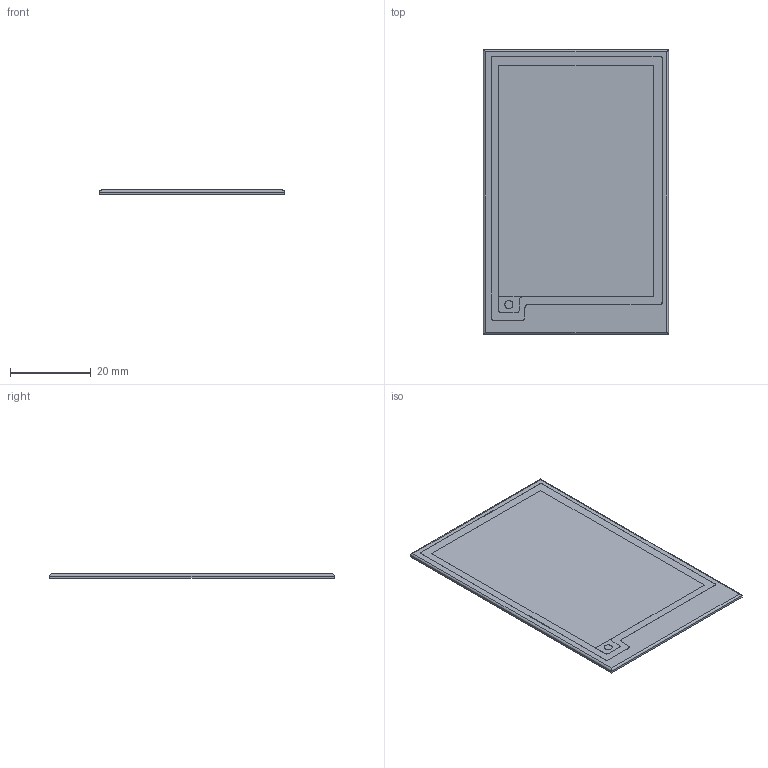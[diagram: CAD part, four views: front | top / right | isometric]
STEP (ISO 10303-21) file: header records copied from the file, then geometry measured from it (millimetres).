
FILE_DESCRIPTION (( 'STEP AP214' ), '1' );
FILE_NAME ('CFAP176264B0-0270_No_Tail.STEP', '2019-07-23T19:09:15', ( '' ), ( '' ), 'SwSTEP 2.0', 'SolidWorks 2015', '' );
FILE_SCHEMA (( 'AUTOMOTIVE_DESIGN' ));
Length unit declared in the file: millimetre
Products named in the file (1): CFAP176264B0-0270_No_Tail
Bounding box: 45.8 x 70.42 x 1 mm (x, y, z)
Volume: 3213.3 mm3; surface area: 6666.1 mm2
Topology: 2 solids, 2 shells, 44 faces, 110 edges, 72 vertices
Faces by surface type: plane 20, cylinder 18, torus 6
Entity records: 1468 total; most frequent: CARTESIAN_POINT 239, DIRECTION 236, ORIENTED_EDGE 220, EDGE_CURVE 110, AXIS2_PLACEMENT_3D 85, VERTEX_POINT 72, VECTOR 66, LINE 66
